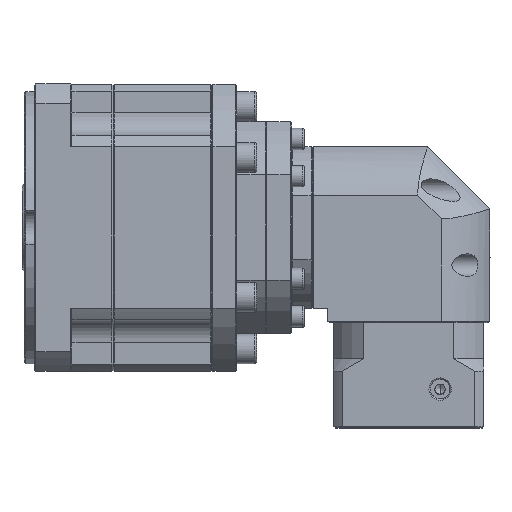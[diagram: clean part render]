
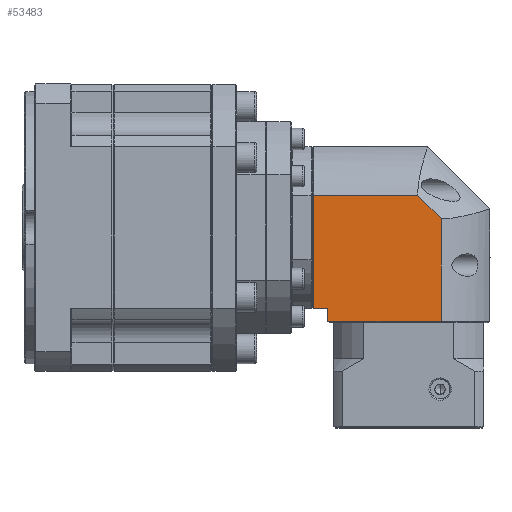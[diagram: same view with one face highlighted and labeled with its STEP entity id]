
A CAD part, top view. The second image highlights one B-rep face of the part: STEP entity #53483.
In plain terms, the highlighted planar face has unit normal (0, 0, 1).
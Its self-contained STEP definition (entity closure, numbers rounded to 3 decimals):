
#16 = DIRECTION ( 'NONE',  ( 1., 0., 0. ) ) ;
#2134 = VERTEX_POINT ( 'NONE', #98305 ) ;
#7272 = LINE ( 'NONE', #81147, #111104 ) ;
#9100 = CARTESIAN_POINT ( 'NONE',  ( -48.782, -17.872, -20.608 ) ) ;
#10742 = PLANE ( 'NONE',  #18160 ) ;
#11657 = ORIENTED_EDGE ( 'NONE', *, *, #74644, .T. ) ;
#15785 = LINE ( 'NONE', #29180, #83577 ) ;
#16954 = ORIENTED_EDGE ( 'NONE', *, *, #123731, .T. ) ;
#18160 = AXIS2_PLACEMENT_3D ( 'NONE', #146276, #65230, #159791 ) ;
#18963 = EDGE_CURVE ( 'NONE', #2134, #73919, #91584, .T. ) ;
#22045 = CARTESIAN_POINT ( 'NONE',  ( -94.273, 52.128, -20.608 ) ) ;
#29180 = CARTESIAN_POINT ( 'NONE',  ( -104.273, -17.872, -20.608 ) ) ;
#37216 = VECTOR ( 'NONE', #146731, 1000. ) ;
#40918 = DIRECTION ( 'NONE',  ( 0., 1., 0. ) ) ;
#42633 = FACE_OUTER_BOUND ( 'NONE', #100746, .T. ) ;
#44188 = ORIENTED_EDGE ( 'NONE', *, *, #18963, .T. ) ;
#45737 = CARTESIAN_POINT ( 'NONE',  ( -99.973, -12.872, -20.608 ) ) ;
#46310 = VERTEX_POINT ( 'NONE', #45737 ) ;
#53483 = ADVANCED_FACE ( 'NONE', ( #42633 ), #10742, .F. ) ;
#53976 = CARTESIAN_POINT ( 'NONE',  ( -104.273, -12.872, -20.608 ) ) ;
#58607 = VERTEX_POINT ( 'NONE', #74949 ) ;
#62611 = LINE ( 'NONE', #158923, #130312 ) ;
#65230 = DIRECTION ( 'NONE',  ( 0., 0., -1. ) ) ;
#66982 = CARTESIAN_POINT ( 'NONE',  ( -419.584, 393.923, -20.608 ) ) ;
#73246 = LINE ( 'NONE', #133121, #37216 ) ;
#73919 = VERTEX_POINT ( 'NONE', #115776 ) ;
#74644 = EDGE_CURVE ( 'NONE', #125004, #138487, #7272, .T. ) ;
#74949 = CARTESIAN_POINT ( 'NONE',  ( -99.973, 32.619, -20.608 ) ) ;
#79153 = ORIENTED_EDGE ( 'NONE', *, *, #128652, .T. ) ;
#79848 = ORIENTED_EDGE ( 'NONE', *, *, #90972, .T. ) ;
#79925 = LINE ( 'NONE', #53976, #147725 ) ;
#81147 = CARTESIAN_POINT ( 'NONE',  ( -48.782, 52.128, -20.608 ) ) ;
#83577 = VECTOR ( 'NONE', #96696, 1000. ) ;
#90972 = EDGE_CURVE ( 'NONE', #58607, #46310, #62611, .T. ) ;
#91584 = LINE ( 'NONE', #22045, #159254 ) ;
#96696 = DIRECTION ( 'NONE',  ( 1., 0., 0. ) ) ;
#98305 = CARTESIAN_POINT ( 'NONE',  ( -94.273, -12.872, -20.608 ) ) ;
#100746 = EDGE_LOOP ( 'NONE', ( #11657, #117506, #130983, #79848, #16954, #44188, #79153 ) ) ;
#103143 = DIRECTION ( 'NONE',  ( 0., -1., 0. ) ) ;
#103151 = VERTEX_POINT ( 'NONE', #130480 ) ;
#105144 = DIRECTION ( 'NONE',  ( 0., -1., 0. ) ) ;
#105375 = LINE ( 'NONE', #66982, #141398 ) ;
#111104 = VECTOR ( 'NONE', #40918, 1000. ) ;
#112434 = EDGE_CURVE ( 'NONE', #138487, #103151, #105375, .T. ) ;
#115776 = CARTESIAN_POINT ( 'NONE',  ( -94.273, -17.872, -20.608 ) ) ;
#117506 = ORIENTED_EDGE ( 'NONE', *, *, #112434, .T. ) ;
#123731 = EDGE_CURVE ( 'NONE', #46310, #2134, #79925, .T. ) ;
#125004 = VERTEX_POINT ( 'NONE', #9100 ) ;
#127345 = CARTESIAN_POINT ( 'NONE',  ( -48.782, 23.121, -20.608 ) ) ;
#128652 = EDGE_CURVE ( 'NONE', #73919, #125004, #15785, .T. ) ;
#130312 = VECTOR ( 'NONE', #105144, 1000. ) ;
#130480 = CARTESIAN_POINT ( 'NONE',  ( -58.28, 32.619, -20.608 ) ) ;
#130983 = ORIENTED_EDGE ( 'NONE', *, *, #175095, .T. ) ;
#133121 = CARTESIAN_POINT ( 'NONE',  ( -29.273, 32.619, -20.608 ) ) ;
#138487 = VERTEX_POINT ( 'NONE', #127345 ) ;
#141398 = VECTOR ( 'NONE', #160372, 1000. ) ;
#146276 = CARTESIAN_POINT ( 'NONE',  ( -104.273, 52.128, -20.608 ) ) ;
#146731 = DIRECTION ( 'NONE',  ( -1., 0., 0. ) ) ;
#147725 = VECTOR ( 'NONE', #16, 1000. ) ;
#158923 = CARTESIAN_POINT ( 'NONE',  ( -99.973, -12.872, -20.608 ) ) ;
#159254 = VECTOR ( 'NONE', #103143, 1000. ) ;
#159791 = DIRECTION ( 'NONE',  ( -1., 0., 0. ) ) ;
#160372 = DIRECTION ( 'NONE',  ( -0.707, 0.707, 0. ) ) ;
#175095 = EDGE_CURVE ( 'NONE', #103151, #58607, #73246, .T. ) ;
